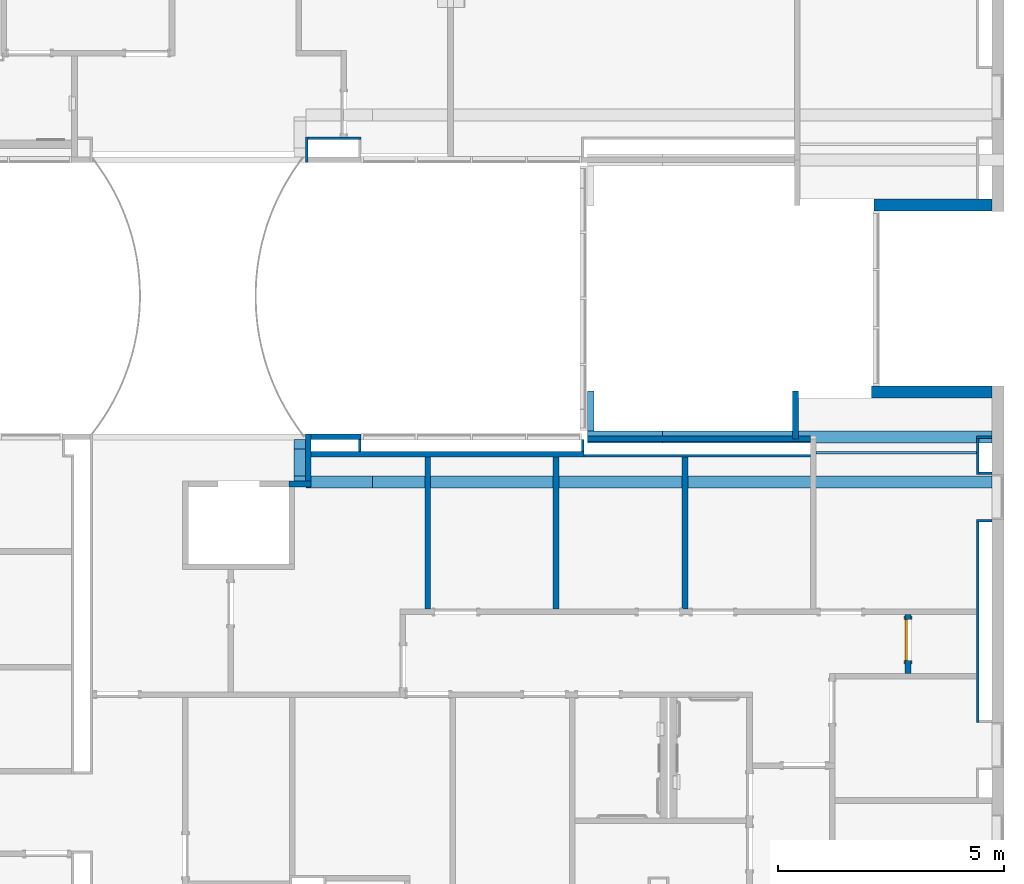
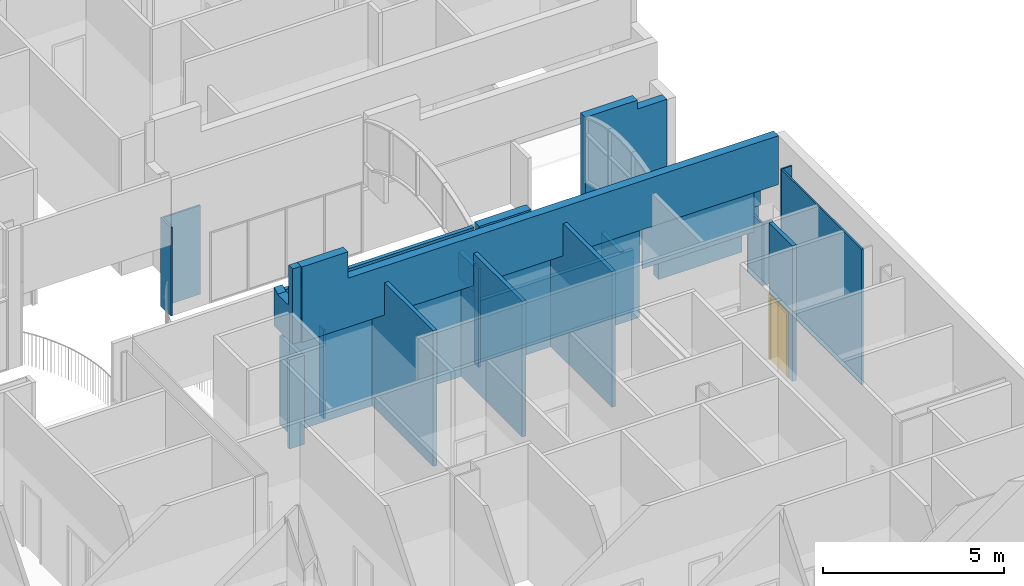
# One storey, part 17 of 45: 27 walls, 1 door, 10 openings.
"""IFC2X3 building model written with IfcOpenShell, lengths in metres."""

from ifc_helpers import new_model, entity, si_unit, converted_unit, frame, frame_2d, origin, origin_2d_with_axis, place, context, project, spatial, polyline, circle_curve, parameter, trimmed, segment, composite_curve, rectangle, outline, extrude, clip, halfspace, bounded_halfspace, source, transform, mapped, material, layer, layer_set, layer_usage, type_object, type_shapes, element, fill, save


model = new_model("IFC2X3")

# Units and contexts
model_context = context("Model", 3, precision=1e-09, world=origin())
plan_context = context("Plan", 3, precision=1e-09, world=origin())
ifc_project = project(units=[si_unit("LENGTHUNIT", "METRE"), si_unit("AREAUNIT", "SQUARE_METRE"), si_unit("VOLUMEUNIT", "CUBIC_METRE"), converted_unit("PLANEANGLEUNIT", "DEGREE", entity("IfcRatioMeasure", 0.01745329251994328), si_unit("PLANEANGLEUNIT", "RADIAN"), dimensions=[0, 0, 0, 0, 0, 0, 0]), si_unit("TIMEUNIT", "SECOND")], contexts=[model_context, plan_context])

# Site, building, storey
site_placement = place(None, origin())
site = spatial("IfcSite", under=ifc_project, at=site_placement, Name="Default", CompositionType="ELEMENT")
building_placement = place(site_placement, origin())
building = spatial("IfcBuilding", under=site, at=building_placement, CompositionType="ELEMENT")
storey_placement = place(building_placement, frame((0.0, 0.0, 4.570000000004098)))
storey = spatial("IfcBuildingStorey", under=building, at=storey_placement, Name="Second Floor", CompositionType="ELEMENT", Elevation=4.570000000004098)

# Wall
ifc_material_1 = material(Name="Plasterboard")
ifc_layer_1 = layer(ifc_material_1, 0.016)
ifc_material_2 = material(Name="Metal - Stud Layer")
ifc_layer_2 = layer(ifc_material_2, 0.092)
ifc_layer_3 = layer(ifc_material_1, 0.016)
ifc_layer_set_1 = layer_set([ifc_layer_1, ifc_layer_2, ifc_layer_3], Name="Basic Wall:Interior - Partition (92mm Stud)")
ifc_layer_usage_1 = layer_usage(ifc_layer_set_1, "AXIS2", "NEGATIVE", 0.062)
wall_1_placement = place(storey_placement, frame((-8.927726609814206, 28.24643871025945, 0.0), z_axis=(0.0, 0.0, 1.0), x_axis=(-1.0, 0.0, 0.0)))
element("IfcWallStandardCase", 1, at=wall_1_placement, inside=storey, material=ifc_layer_usage_1, Name="Basic Wall:Interior - Partition (92mm Stud)", ObjectType="Basic Wall:Interior - Partition (92mm Stud)", context=model_context, shape_type="SweptSolid", body=[
    extrude(rectangle(XDim=6.058248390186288, YDim=0.1239999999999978, at=frame_2d((3.029124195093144, 0.0), x_axis=(-1.0, 0.0))), origin(), (0.0, 0.0, 1.0), 3.35319999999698),
])

# Wall, opening
ifc_layer_usage_2 = layer_usage(ifc_layer_set_1, "AXIS2", "POSITIVE", -0.062)
wall_2_placement = place(storey_placement, frame((-8.981726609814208, 28.6281984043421, 0.0), z_axis=(0.0, 0.0, 1.0), x_axis=(-1.0, 0.0, 0.0)))
wall_2 = element("IfcWallStandardCase", 2, at=wall_2_placement, inside=storey, material=ifc_layer_usage_2, Name="Basic Wall:Interior - Partition (92mm Stud)", ObjectType="Basic Wall:Interior - Partition (92mm Stud)", context=model_context, shape_type="SweptSolid", body=[
    extrude(rectangle(XDim=6.066248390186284, YDim=0.1239999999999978, at=frame_2d((3.033124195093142, 0.0), x_axis=(-1.0, 0.0))), origin(), (0.0, 0.0, 1.0), 4.577999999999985),
])
opening_1_placement = place(wall_2_placement, origin())
element("IfcOpeningElement", 3, at=opening_1_placement, cuts=wall_2, ObjectType="Opening", context=model_context, shape_type="SweptSolid", body=[
    extrude(rectangle(XDim=2.4, YDim=4.890773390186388, at=origin_2d_with_axis()), frame((2.445386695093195, -0.2144000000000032, 1.199999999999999), z_axis=(0.0, 1.0, 0.0), x_axis=(0.0, 0.0, 1.0)), (0.0, 0.0, 1.0), 0.4288000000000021),
])

# Wall
wall_3_placement = place(storey_placement, frame((-15.0479750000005, 27.64589999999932, 0.0), z_axis=(0.0, 0.0, 1.0), x_axis=(0.0, 1.0, 0.0)))
element("IfcWallStandardCase", 4, at=wall_3_placement, inside=storey, material=ifc_layer_usage_1, Name="Basic Wall:Interior - Partition (92mm Stud)", ObjectType="Basic Wall:Interior - Partition (92mm Stud)", context=model_context, shape_type="SweptSolid", body=[
    extrude(rectangle(XDim=1.044298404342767, YDim=0.1240000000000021, at=frame_2d((0.5221492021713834, 0.0), x_axis=(-1.0, 0.0))), origin(), (0.0, 0.0, 1.0), 2.999999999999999),
])

# Wall, opening
ifc_material_3 = material(Name="Insulation - Insulated Panel")
ifc_layer_4 = layer(ifc_material_3, 0.042)
ifc_material_4 = material(Name="Metal - Firring")
ifc_layer_5 = layer(ifc_material_4, 0.038)
ifc_material_5 = material(Name="Wood - Sheathing - plywood")
ifc_layer_6 = layer(ifc_material_5, 0.019)
ifc_layer_7 = layer(ifc_material_2, 0.152)
ifc_layer_8 = layer(ifc_material_1, 0.016)
ifc_layer_set_2 = layer_set([ifc_layer_4, ifc_layer_5, ifc_layer_6, ifc_layer_7, ifc_layer_8], Name="Basic Wall:Exterior - Insul Panel on Mtl. Stud")
ifc_layer_usage_3 = layer_usage(ifc_layer_set_2, "AXIS2", "POSITIVE", -0.1335)
wall_4_placement = place(storey_placement, frame((0.1129999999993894, 29.62649999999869, 0.0), z_axis=(0.0, 0.0, 1.0), x_axis=(-1.0, 0.0, 0.0)))
wall_4 = element("IfcWallStandardCase", 5, at=wall_4_placement, inside=storey, material=ifc_layer_usage_3, Name="Basic Wall:Exterior - Insul Panel on Mtl. Stud", ObjectType="Basic Wall:Exterior - Insul Panel on Mtl. Stud", context=model_context, shape_type="Clipping", body=[
    clip(extrude(rectangle(XDim=2.672999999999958, YDim=0.267, at=frame_2d((1.336499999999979, 0.0), x_axis=(-1.0, 0.0))), origin(), (0.0, 0.0, 1.0), 2.940000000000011), halfspace(frame((0.9479201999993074, 0.0, 2.940000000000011), z_axis=(-0.2673175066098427, 0.0, 0.9636085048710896), x_axis=(0.0, 1.0, 0.0)), False)),
])
opening_2_placement = place(wall_4_placement, frame((0.5874467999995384, 0.1335000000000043, 2.740000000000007)))
element("IfcOpeningElement", 6, at=opening_2_placement, cuts=wall_4, Name="Basic Wall:Exterior - Insul Panel on Mtl. Stud:2", ObjectType="Opening", context=model_context, shape_type="SweptSolid", body=[
    extrude(outline(polyline([(-0.4008187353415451, 0.09636085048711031), (-0.3206234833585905, -0.1927217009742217), (0.7214422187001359, 0.0963608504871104), (-0.4008187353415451, 0.09636085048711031)])), frame((0.0, 0.0, 0.0), z_axis=(0.0, 1.0, 0.0), x_axis=(-0.9636085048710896, 0.0, -0.2673175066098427)), (0.0, 0.0, -1.0), 0.267),
])

ifc_layer_usage_4 = layer_usage(ifc_layer_set_2, "AXIS2", "NEGATIVE", 0.1335)
wall_5_placement = place(storey_placement, frame((0.1129999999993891, 33.77349999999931, 0.0), z_axis=(0.0, 0.0, 1.0), x_axis=(-1.0, 0.0, 0.0)))
wall_5 = element("IfcWallStandardCase", 7, at=wall_5_placement, inside=storey, material=ifc_layer_usage_4, Name="Basic Wall:Exterior - Insul Panel on Mtl. Stud", ObjectType="Basic Wall:Exterior - Insul Panel on Mtl. Stud", context=model_context, shape_type="Clipping", body=[
    clip(extrude(rectangle(XDim=2.610999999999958, YDim=0.267, at=frame_2d((1.305499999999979, 0.0), x_axis=(-1.0, 0.0))), origin(), (0.0, 0.0, 1.0), 2.940000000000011), halfspace(frame((0.9529201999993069, 0.0, 2.940000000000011), z_axis=(-0.2661745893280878, 0.0, 0.963924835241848), x_axis=(0.0, 1.0, 0.0)), False)),
])
opening_3_placement = place(wall_5_placement, frame((0.5907801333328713, 0.1335, 2.74000000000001)))
element("IfcOpeningElement", 8, at=opening_3_placement, cuts=wall_5, Name="Basic Wall:Exterior - Insul Panel on Mtl. Stud:2", ObjectType="Opening", context=model_context, shape_type="SweptSolid", body=[
    extrude(outline(polyline([(-0.4023107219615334, -0.09639248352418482), (0.7247690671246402, -0.09639248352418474), (-0.322458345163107, 0.1927849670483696), (-0.4023107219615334, -0.09639248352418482)])), frame((0.0, 0.0, 0.0), z_axis=(0.0, -1.0, 0.0), x_axis=(-0.963924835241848, 0.0, -0.2661745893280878)), (0.0, 0.0, 1.0), 0.267),
])

# Walls
wall_6_placement = place(storey_placement, frame((-15.47000000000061, 27.58389999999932, 0.0)))
element("IfcWallStandardCase", 9, at=wall_6_placement, inside=storey, material=ifc_layer_usage_1, Name="Basic Wall:Interior - Partition (92mm Stud)", ObjectType="Basic Wall:Interior - Partition (92mm Stud)", context=model_context, shape_type="SweptSolid", body=[
    extrude(rectangle(XDim=0.4840250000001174, YDim=0.1239999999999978, at=frame_2d((0.2420125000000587, 0.0), x_axis=(-1.0, 0.0))), origin(), (0.0, 0.0, 1.0), 2.999999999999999),
])
ifc_layer_9 = layer(ifc_material_2, 0.038)
ifc_layer_10 = layer(ifc_material_1, 0.016)
ifc_layer_set_3 = layer_set([ifc_layer_9, ifc_layer_10], Name="Basic Wall:Interior - Furring (38 mm Stud)")
ifc_layer_usage_5 = layer_usage(ifc_layer_set_3, "AXIS2", "POSITIVE", -0.027)
wall_7_placement = place(storey_placement, frame((-3.913975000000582, 28.21143871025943, 0.0), z_axis=(0.0, 0.0, 1.0), x_axis=(-1.0, 0.0, 0.0)))
element("IfcWallStandardCase", 10, at=wall_7_placement, inside=storey, material=ifc_layer_usage_5, Name="Basic Wall:Interior - Furring (38 mm Stud)", ObjectType="Basic Wall:Interior - Furring (38 mm Stud)", context=model_context, shape_type="SweptSolid", body=[
    extrude(rectangle(XDim=5.013751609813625, YDim=0.05399999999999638, at=frame_2d((2.506875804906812, 0.0), x_axis=(-1.0, 0.0))), origin(), (0.0, 0.0, 1.0), 3.35319999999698),
])
ifc_layer_usage_6 = layer_usage(ifc_layer_set_3, "AXIS2", "NEGATIVE", 0.027)
wall_8_placement = place(storey_placement, frame((-0.2030000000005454, 26.74043871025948, 0.0), z_axis=(0.0, 0.0, 1.0), x_axis=(0.0, -1.0, 0.0)))
element("IfcWallStandardCase", 11, at=wall_8_placement, inside=storey, material=ifc_layer_usage_6, Name="Basic Wall:Interior - Furring (38 mm Stud)", ObjectType="Basic Wall:Interior - Furring (38 mm Stud)", context=model_context, shape_type="SweptSolid", body=[
    extrude(rectangle(XDim=4.446000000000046, YDim=0.05399999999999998, at=frame_2d((2.223000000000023, 0.0), x_axis=(-1.0, 0.0))), origin(), (0.0, 0.0, 1.0), 4.577999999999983),
])
wall_9_placement = place(storey_placement, frame((-8.954726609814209, 28.5661984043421, 0.0), z_axis=(0.0, 0.0, 1.0), x_axis=(0.0, -1.0, 0.0)))
element("IfcWallStandardCase", 12, at=wall_9_placement, inside=storey, material=ifc_layer_usage_6, Name="Basic Wall:Interior - Furring (38 mm Stud)", ObjectType="Basic Wall:Interior - Furring (38 mm Stud)", context=model_context, shape_type="SweptSolid", body=[
    extrude(rectangle(XDim=0.2577596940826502, YDim=0.05400000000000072, at=frame_2d((0.1288798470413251, 0.0), x_axis=(-1.0, 0.0))), origin(), (0.0, 0.0, 1.0), 3.35319999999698),
])

# Wall, opening, door
wall_10_placement = place(storey_placement, frame((-1.74800000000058, 23.38443871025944, 0.0), z_axis=(0.0, 0.0, 1.0), x_axis=(0.0, 1.0, 0.0)))
wall_10 = element("IfcWallStandardCase", 13, at=wall_10_placement, inside=storey, material=ifc_layer_usage_1, Name="Basic Wall:Interior - Partition (92mm Stud)", ObjectType="Basic Wall:Interior - Partition (92mm Stud)", context=model_context, shape_type="SweptSolid", body=[
    extrude(rectangle(XDim=1.300000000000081, YDim=0.124, at=frame_2d((0.6500000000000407, 0.0), x_axis=(-1.0, 0.0))), origin(), (0.0, 0.0, 1.0), 4.577999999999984),
])
opening_4_placement = place(wall_10_placement, frame((0.2850000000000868, -0.06200000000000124, 0.0)))
opening_4 = element("IfcOpeningElement", 14, at=opening_4_placement, cuts=wall_10, Name="M_Single-Flush:0915 x 2134mm:0915 x 2134mm:1", ObjectType="Opening", context=model_context, shape_type="SweptSolid", body=[
    extrude(rectangle(XDim=0.9149999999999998, YDim=2.134, at=frame_2d((1.067, 0.4575), x_axis=(0.0, 1.0))), frame((0.0, 0.0, 0.0), z_axis=(0.0, 1.0, 0.0), x_axis=(0.0, 0.0, 1.0)), (0.0, 0.0, 1.0), 0.124),
])
door_style = type_object("IfcDoorStyle", Name="0915 x 2134mm", ConstructionType="NOTDEFINED", OperationType="SINGLE_SWING_RIGHT", ParameterTakesPrecedence=False, Sizeable=False)
shared_shape = source(origin(), model_context, "Body", "SweptSolid", [
    extrude(outline(polyline([(-0.5335, -1.123999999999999), (0.5334999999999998, -1.123999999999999), (0.5334999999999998, 1.086), (0.4574999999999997, 1.086), (0.4574999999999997, -1.048000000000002), (-0.4574999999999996, -1.048000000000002), (-0.4574999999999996, 1.086), (-0.5335, 1.086), (-0.5335, -1.123999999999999)])), frame((0.4575000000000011, 0.1239999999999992, 1.086), z_axis=(0.0, 1.0, 0.0), x_axis=(1.0, 0.0, 0.0)), (0.0, 0.0, 1.0), 0.02499999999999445),
    extrude(outline(polyline([(-1.123999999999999, -0.5334999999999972), (1.085999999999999, -0.5334999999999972), (1.085999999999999, -0.4575000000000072), (-1.048, -0.4575000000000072), (-1.048, 0.4575000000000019), (1.085999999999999, 0.4575000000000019), (1.085999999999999, 0.5335000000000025), (-1.123999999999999, 0.5335000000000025), (-1.123999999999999, -0.5334999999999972)])), frame((0.4575000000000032, -0.02500000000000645, 1.085999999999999), z_axis=(0.0, 1.0, 0.0), x_axis=(0.0, 0.0, -1.0)), (0.0, 0.0, 1.0), 0.02500000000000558),
    extrude(rectangle(XDim=0.051, YDim=0.9149999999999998, at=origin_2d_with_axis()), frame((0.4575000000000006, 0.09849999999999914, 0.0), z_axis=(0.0, 0.0, 1.0), x_axis=(0.0, 1.0, 0.0)), (0.0, 0.0, 1.0), 2.133999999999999),
])
type_shapes(door_style, [shared_shape])
door_placement = place(opening_4_placement, origin())
door = element("IfcDoor", 15, at=door_placement, inside=storey, type_object=door_style, Name="M_Single-Flush:0915 x 2134mm:0915 x 2134mm", ObjectType="0915 x 2134mm", OverallHeight=2.134, OverallWidth=0.9149999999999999, context=model_context, shape_type="MappedRepresentation", body=[
    mapped(shared_shape, transform((0.0, 0.0, 0.0), scale=1.0)),
])
fill(opening_4, door)

# Wall
wall_11_placement = place(storey_placement, frame((-15.08297500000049, 34.70980159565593, 0.0), z_axis=(0.0, 0.0, 1.0), x_axis=(0.0, 1.0, 0.0)))
element("IfcWallStandardCase", 16, at=wall_11_placement, inside=storey, material=ifc_layer_usage_5, Name="Basic Wall:Interior - Furring (38 mm Stud)", ObjectType="Basic Wall:Interior - Furring (38 mm Stud)", context=model_context, shape_type="SweptSolid", body=[
    extrude(rectangle(XDim=0.5646371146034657, YDim=0.05400000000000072, at=frame_2d((0.2823185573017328, 0.0), x_axis=(-1.0, 0.0))), origin(), (0.0, 0.0, 1.0), 2.999999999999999),
])

# Wall, opening
wall_12_placement = place(storey_placement, frame((-6.691975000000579, 28.18443871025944, 0.0), z_axis=(0.0, 0.0, 1.0), x_axis=(0.0, -1.0, 0.0)))
wall_12 = element("IfcWallStandardCase", 17, at=wall_12_placement, inside=storey, material=ifc_layer_usage_1, Name="Basic Wall:Interior - Partition (92mm Stud)", ObjectType="Basic Wall:Interior - Partition (92mm Stud)", context=model_context, shape_type="Clipping", body=[
    clip(extrude(rectangle(XDim=3.3759999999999, YDim=0.124, at=frame_2d((1.68799999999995, 0.0), x_axis=(-1.0, 0.0))), origin(), (0.0, 0.0, 1.0), 4.577999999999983), halfspace(frame((0.5578427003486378, 0.0, 4.577999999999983), z_axis=(-0.8950082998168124, 0.0, 0.4460494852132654), x_axis=(0.0, 1.0, 0.0)), False)),
])
opening_5_placement = place(wall_12_placement, frame((0.3628951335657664, 0.06200000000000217, 3.79566666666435)))
element("IfcOpeningElement", 18, at=opening_5_placement, cuts=wall_12, Name="Basic Wall:Interior - Partition (92mm Stud):2", ObjectType="Opening", context=model_context, shape_type="SweptSolid", body=[
    extrude(outline(polyline([(-0.787151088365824, -0.1744796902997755), (0.5240099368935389, -0.1744796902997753), (0.2631411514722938, 0.3489593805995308), (-0.787151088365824, -0.1744796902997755)])), frame((0.0, 0.0, 0.0), z_axis=(0.0, -1.0, 0.0), x_axis=(-0.4460494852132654, 0.0, -0.8950082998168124)), (0.0, 0.0, 1.0), 0.124),
])

# Wall
wall_13_placement = place(storey_placement, frame((-15.05597500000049, 35.24743871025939, 0.0)))
element("IfcWallStandardCase", 19, at=wall_13_placement, inside=storey, material=ifc_layer_usage_5, Name="Basic Wall:Interior - Furring (38 mm Stud)", ObjectType="Basic Wall:Interior - Furring (38 mm Stud)", context=model_context, shape_type="SweptSolid", body=[
    extrude(rectangle(XDim=1.183474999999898, YDim=0.05399999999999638, at=frame_2d((0.5917374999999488, 0.0), x_axis=(-1.0, 0.0))), origin(), (0.0, 0.0, 1.0), 2.999999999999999),
])

# Wall, opening
wall_14_placement = place(storey_placement, frame((-9.551975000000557, 28.18443871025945, 0.0), z_axis=(0.0, 0.0, 1.0), x_axis=(0.0, -1.0, 0.0)))
wall_14 = element("IfcWallStandardCase", 20, at=wall_14_placement, inside=storey, material=ifc_layer_usage_1, Name="Basic Wall:Interior - Partition (92mm Stud)", ObjectType="Basic Wall:Interior - Partition (92mm Stud)", context=model_context, shape_type="Clipping", body=[
    clip(extrude(rectangle(XDim=3.3759999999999, YDim=0.124, at=frame_2d((1.68799999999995, 0.0), x_axis=(-1.0, 0.0))), origin(), (0.0, 0.0, 1.0), 4.577999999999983), halfspace(frame((0.5578427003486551, 0.0, 4.577999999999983), z_axis=(-0.8902465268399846, 0.0, 0.4554790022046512), x_axis=(0.0, 1.0, 0.0)), False)),
])
opening_6_placement = place(wall_14_placement, frame((0.3512284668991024, 0.06200000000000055, 3.770333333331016)))
element("IfcOpeningElement", 21, at=opening_6_placement, cuts=wall_14, Name="Basic Wall:Interior - Partition (92mm Stud):2", ObjectType="Opening", context=model_context, shape_type="SweptSolid", body=[
    extrude(outline(polyline([(-0.8131308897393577, -0.1839376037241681), (0.5477281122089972, -0.1839376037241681), (0.2654027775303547, 0.3678752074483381), (-0.8131308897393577, -0.1839376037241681)])), frame((0.0, 0.0, 0.0), z_axis=(0.0, -1.0, 0.0), x_axis=(-0.4554790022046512, 0.0, -0.8902465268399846)), (0.0, 0.0, 1.0), 0.124),
])

wall_15_placement = place(storey_placement, frame((-12.39197500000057, 28.18443871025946, 0.0), z_axis=(0.0, 0.0, 1.0), x_axis=(0.0, -1.0, 0.0)))
wall_15 = element("IfcWallStandardCase", 22, at=wall_15_placement, inside=storey, material=ifc_layer_usage_1, Name="Basic Wall:Interior - Partition (92mm Stud)", ObjectType="Basic Wall:Interior - Partition (92mm Stud)", context=model_context, shape_type="Clipping", body=[
    clip(extrude(rectangle(XDim=3.3759999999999, YDim=0.1240000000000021, at=frame_2d((1.68799999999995, 0.0), x_axis=(-1.0, 0.0))), origin(), (0.0, 0.0, 1.0), 4.577999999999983), halfspace(frame((0.5578427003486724, 0.0, 4.577999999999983), z_axis=(-0.892247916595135, 0.0, 0.4515458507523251), x_axis=(0.0, 1.0, 0.0)), False)),
])
opening_7_placement = place(wall_15_placement, frame((0.351228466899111, 0.06200000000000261, 3.761466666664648)))
element("IfcOpeningElement", 23, at=opening_7_placement, cuts=wall_15, Name="Basic Wall:Interior - Partition (92mm Stud):2", ObjectType="Opening", context=model_context, shape_type="SweptSolid", body=[
    extrude(outline(polyline([(-0.8218459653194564, -0.1843511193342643), (0.5508666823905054, -0.1843511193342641), (0.2709792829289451, 0.36870223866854), (-0.8218459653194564, -0.1843511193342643)])), frame((0.0, 0.0, 0.0), z_axis=(0.0, -1.0, 0.0), x_axis=(-0.4515458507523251, 0.0, -0.892247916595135)), (0.0, 0.0, 1.0), 0.124),
])

# Walls
wall_16_placement = place(storey_placement, frame((0.1129999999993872, 28.61743871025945, 0.0), z_axis=(0.0, 0.0, 1.0), x_axis=(-1.0, 0.0, 0.0)))
element("IfcWallStandardCase", 24, at=wall_16_placement, inside=storey, material=ifc_layer_usage_6, Name="Basic Wall:Interior - Furring (38 mm Stud)", ObjectType="Basic Wall:Interior - Furring (38 mm Stud)", context=model_context, shape_type="SweptSolid", body=[
    extrude(rectangle(XDim=0.344, YDim=0.05399999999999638, at=frame_2d((0.172, 0.0), x_axis=(-1.0, 0.0))), origin(), (0.0, 0.0, 1.0), 2.1054),
])
wall_17_placement = place(storey_placement, frame((-0.2040000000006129, 28.59043871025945, 0.0), z_axis=(0.0, 0.0, 1.0), x_axis=(0.0, -1.0, 0.0)))
element("IfcWallStandardCase", 25, at=wall_17_placement, inside=storey, material=ifc_layer_usage_6, Name="Basic Wall:Interior - Furring (38 mm Stud)", ObjectType="Basic Wall:Interior - Furring (38 mm Stud)", context=model_context, shape_type="SweptSolid", body=[
    extrude(rectangle(XDim=0.7959999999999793, YDim=0.05400000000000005, at=frame_2d((0.3979999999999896, 0.0), x_axis=(-1.0, 0.0))), origin(), (0.0, 0.0, 1.0), 2.1054),
])
wall_18_placement = place(storey_placement, frame((-8.85772660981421, 28.58243871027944, 0.0)))
element("IfcWallStandardCase", 26, at=wall_18_placement, inside=storey, material=ifc_layer_usage_1, Name="Basic Wall:Interior - Partition (92mm Stud)", ObjectType="Basic Wall:Interior - Partition (92mm Stud)", context=model_context, shape_type="SweptSolid", body=[
    extrude(rectangle(XDim=4.943751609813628, YDim=0.1240000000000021, at=frame_2d((2.471875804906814, 0.0), x_axis=(-1.0, 0.0))), origin(), (0.0, 0.0, 1.0), 2.071499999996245),
])

# Wall, opening
wall_19_placement = place(storey_placement, frame((0.11299999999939, 28.6264999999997, 2.191499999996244), z_axis=(0.0, 0.0, 1.0), x_axis=(-1.0, 0.0, 0.0)))
wall_19 = element("IfcWallStandardCase", 27, at=wall_19_placement, inside=storey, material=ifc_layer_usage_3, Name="Basic Wall:Exterior - Insul Panel on Mtl. Stud", ObjectType="Basic Wall:Exterior - Insul Panel on Mtl. Stud", context=model_context, shape_type="Clipping", body=[
    clip(clip(extrude(rectangle(XDim=8.97072660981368, YDim=0.2669999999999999, at=frame_2d((4.48536330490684, 0.0), x_axis=(-1.0, 0.0))), origin(), (0.0, 0.0, 1.0), 2.414977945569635), halfspace(frame((7.309241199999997, -0.1335, 2.414977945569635), z_axis=(2.316904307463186e-06, 0.0, 1.0), x_axis=(0.0, 1.0, 0.0)), False)), halfspace(frame((7.309241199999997, 0.0, 2.414977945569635), z_axis=(-0.09602112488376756, 0.0, 0.9953792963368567), x_axis=(0.0, 1.0, 0.0)), False)),
])
opening_8_placement = place(wall_19_placement, frame((4.828327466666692, 0.1334999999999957, 1.936325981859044)))
element("IfcOpeningElement", 28, at=opening_8_placement, cuts=wall_19, Name="Basic Wall:Exterior - Insul Panel on Mtl. Stud:2", ObjectType="Opening", context=model_context, shape_type="SweptSolid", body=[
    extrude(outline(polyline([(-2.515410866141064, -0.2382201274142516), (4.961880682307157, -0.2382201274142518), (-2.446469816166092, 0.4764402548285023), (-2.515410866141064, -0.2382201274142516)])), frame((0.0, 0.0, 0.0), z_axis=(0.0, -1.0, 0.0), x_axis=(-0.9953792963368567, 0.0, -0.09602112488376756)), (0.0, 0.0, 1.0), 0.267),
])

wall_20_placement = place(storey_placement, frame((-15.23000000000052, 28.56619840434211, 3.486499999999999), z_axis=(0.0, 0.0, 1.0), x_axis=(0.0, -1.0, 0.0)))
wall_20 = element("IfcWallStandardCase", 29, at=wall_20_placement, inside=storey, material=ifc_layer_usage_4, Name="Basic Wall:Exterior - Insul Panel on Mtl. Stud", ObjectType="Basic Wall:Exterior - Insul Panel on Mtl. Stud", context=model_context, shape_type="SweptSolid", body=[
    extrude(rectangle(XDim=1.026688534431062, YDim=0.267, at=frame_2d((0.5133442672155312, 0.0), x_axis=(-1.0, 0.0))), origin(), (0.0, 0.0, 1.0), 2.543499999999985),
])
opening_9_placement = place(wall_20_placement, origin())
element("IfcOpeningElement", 30, at=opening_9_placement, cuts=wall_20, ObjectType="Opening", context=model_context, shape_type="SweptSolid", body=[
    extrude(outline(composite_curve([segment(polyline([(-3.935840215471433, 0.4658794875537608), (-3.935840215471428, -0.9317589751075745)]), True, "CONTINUOUS"), segment(trimmed(circle_curve(frame_2d((-0.0006862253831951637, 6.416606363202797), x_axis=(-1.0, 0.0)), 8.33570093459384), [parameter(61.8303182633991)], [parameter(118.1696817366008)], True, "PARAMETER"), True, "CONTINUOUS"), segment(polyline([(3.934467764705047, -0.9317589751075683), (3.934467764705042, 0.4658794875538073)]), True, "CONTINUOUS"), segment(polyline([(3.934467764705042, 0.4658794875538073), (3.336313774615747, 0.4658794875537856)]), True, "CONTINUOUS"), segment(trimmed(circle_curve(frame_2d((0.001372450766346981, 6.383921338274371), x_axis=(-1.0, 0.0)), 6.793015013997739), [parameter(60.59782404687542)], [parameter(119.4021759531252)], True, "PARAMETER"), False, "CONTINUOUS"), segment(polyline([(-3.333568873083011, 0.4658794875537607), (-3.935840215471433, 0.4658794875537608)]), True, "CONTINUOUS")], self_intersect=False)), frame((-3.129737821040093, -0.2858999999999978, 1.659379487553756), z_axis=(0.0, -1.0, 0.0), x_axis=(-1.0, 0.0, 0.0)), (0.0, 0.0, -1.0), 0.5718),
])

# Walls
wall_21_placement = place(storey_placement, frame((-4.242000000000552, 29.64599999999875, 0.02843658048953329), z_axis=(0.0, 0.0, 1.0), x_axis=(0.0, -1.0, 0.0)))
element("IfcWallStandardCase", 31, at=wall_21_placement, inside=storey, material=ifc_layer_usage_1, Name="Basic Wall:Interior - Partition (92mm Stud)", ObjectType="Basic Wall:Interior - Partition (92mm Stud)", context=model_context, shape_type="SweptSolid", body=[
    extrude(rectangle(XDim=1.063561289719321, YDim=0.124, at=frame_2d((0.5317806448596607, 0.0), x_axis=(-1.0, 0.0))), origin(), (0.0, 0.0, 1.0), 2.077003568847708),
])
wall_22_placement = place(storey_placement, frame((-0.1770000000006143, 27.82143871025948, 0.0)))
element("IfcWallStandardCase", 32, at=wall_22_placement, inside=storey, material=ifc_layer_usage_6, Name="Basic Wall:Interior - Furring (38 mm Stud)", ObjectType="Basic Wall:Interior - Furring (38 mm Stud)", context=model_context, shape_type="SweptSolid", body=[
    extrude(rectangle(XDim=0.2900000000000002, YDim=0.05399999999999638, at=frame_2d((0.1450000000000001, 0.0), x_axis=(-1.0, 0.0))), origin(), (0.0, 0.0, 1.0), 2.1054),
])
wall_23_placement = place(storey_placement, frame((0.1129999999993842, 26.76743871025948, 0.0), z_axis=(0.0, 0.0, 1.0), x_axis=(-1.0, 0.0, 0.0)))
element("IfcWallStandardCase", 33, at=wall_23_placement, inside=storey, material=ifc_layer_usage_6, Name="Basic Wall:Interior - Furring (38 mm Stud)", ObjectType="Basic Wall:Interior - Furring (38 mm Stud)", context=model_context, shape_type="SweptSolid", body=[
    extrude(rectangle(XDim=0.3429999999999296, YDim=0.05399999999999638, at=frame_2d((0.1714999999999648, 0.0), x_axis=(-1.0, 0.0))), origin(), (0.0, 0.0, 1.0), 4.577999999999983),
])

# Wall, opening
wall_24_placement = place(storey_placement, frame((0.1129999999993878, 27.62659600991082, 3.486499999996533), z_axis=(0.0, 0.0, 1.0), x_axis=(-1.0, 0.0, 0.0)))
wall_24 = element("IfcWallStandardCase", 34, at=wall_24_placement, inside=storey, material=ifc_layer_usage_3, Name="Basic Wall:Exterior - Insul Panel on Mtl. Stud", ObjectType="Basic Wall:Exterior - Insul Panel on Mtl. Stud", context=model_context, shape_type="Clipping", body=[
    clip(extrude(rectangle(XDim=15.20949999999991, YDim=0.267, at=frame_2d((7.604749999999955, 0.0), x_axis=(-1.0, 0.0))), origin(), (0.0, 0.0, 1.0), 2.544328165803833), halfspace(frame((13.73299999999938, 0.0, 2.544328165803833), z_axis=(-0.06432603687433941, 0.0, 0.9979289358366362), x_axis=(0.0, 1.0, 0.0)), False)),
])
opening_10_placement = place(wall_24_placement, frame((9.11083333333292, 0.1335000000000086, 1.94844272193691)))
element("IfcOpeningElement", 35, at=opening_10_placement, cuts=wall_24, Name="Basic Wall:Exterior - Insul Panel on Mtl. Stud:2", ObjectType="Opening", context=model_context, shape_type="SweptSolid", body=[
    extrude(outline(polyline([(-4.650924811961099, -0.2973256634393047), (9.244353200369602, -0.2973256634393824), (-4.5934283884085, 0.5946513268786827), (-4.650924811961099, -0.2973256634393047)])), frame((0.0, 0.0, 0.0), z_axis=(0.0, -1.0, 0.0), x_axis=(-0.9979289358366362, 0.0, -0.06432603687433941)), (0.0, 0.0, 1.0), 0.267),
])

# Walls
wall_25_placement = place(storey_placement, frame((-13.8995000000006, 28.56619840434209, 0.0), z_axis=(0.0, 0.0, 1.0), x_axis=(0.0, -1.0, 0.0)))
element("IfcWallStandardCase", 36, at=wall_25_placement, inside=storey, material=ifc_layer_usage_5, Name="Basic Wall:Interior - Furring (38 mm Stud)", ObjectType="Basic Wall:Interior - Furring (38 mm Stud)", context=model_context, shape_type="SweptSolid", body=[
    extrude(rectangle(XDim=0.25775969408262, YDim=0.05400000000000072, at=frame_2d((0.12887984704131, 0.0), x_axis=(-1.0, 0.0))), origin(), (0.0, 0.0, 1.0), 2.999999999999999),
])
wall_26_placement = place(storey_placement, frame((-3.789975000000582, 28.27649999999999, 1.55)))
element("IfcWallStandardCase", 37, at=wall_26_placement, inside=storey, material=ifc_layer_usage_6, Name="Basic Wall:Interior - Furring (38 mm Stud)", ObjectType="Basic Wall:Interior - Furring (38 mm Stud)", context=model_context, shape_type="Clipping", body=[
    clip(clip(extrude(rectangle(XDim=3.558974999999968, YDim=0.05399999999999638, at=frame_2d((1.779487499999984, 0.0), x_axis=(-1.0, 0.0))), origin(), (0.0, 0.0, 1.0), 1.816499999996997), bounded_halfspace(frame((3.558974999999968, -0.01500000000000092, 0.05700000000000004), z_axis=(0.0, 0.0, 1.0), x_axis=(0.0, -1.0, 0.0)), True, frame((3.558974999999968, -0.01500000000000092, 0.05700000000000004), z_axis=(0.0, 0.0, 1.0), x_axis=(0.0, -1.0, 0.0)), polyline([(0.0, 0.0), (-0.04199999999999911, 0.0), (-0.04199999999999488, -3.558974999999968), (0.0, -3.558974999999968), (0.0, 0.0)]))), bounded_halfspace(frame((0.0, -0.01499999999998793, 0.05700000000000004), z_axis=(0.0, -1.0, 0.0), x_axis=(0.0, 0.0, -1.0)), True, frame((0.0, -0.01499999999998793, 0.05700000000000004), z_axis=(0.0, -1.0, 0.0), x_axis=(0.0, 0.0, -1.0)), polyline([(0.0, 0.0), (0.05700000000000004, 0.0), (0.05700000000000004, 3.558974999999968), (0.0, 3.558974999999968), (0.0, 0.0)]))),
])
wall_27_placement = place(storey_placement, frame((-8.84822660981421, 29.64599999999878, 2.1915), z_axis=(0.0, 0.0, 1.0), x_axis=(0.0, -1.0, 0.0)))
element("IfcWallStandardCase", 38, at=wall_27_placement, inside=storey, material=ifc_layer_usage_4, Name="Basic Wall:Exterior - Insul Panel on Mtl. Stud", ObjectType="Basic Wall:Exterior - Insul Panel on Mtl. Stud", context=model_context, shape_type="Clipping", body=[
    clip(extrude(rectangle(XDim=0.8859999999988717, YDim=0.2669999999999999, at=frame_2d((0.4429999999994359, 0.0), x_axis=(-1.0, 0.0))), origin(), (0.0, 0.0, 1.0), 0.8785000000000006), bounded_halfspace(frame((0.0, -0.009500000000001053, 0.0), z_axis=(0.0, 1.0, 0.0), x_axis=(-1.0, 0.0, 0.0)), True, frame((0.0, -0.009500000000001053, 0.0), z_axis=(0.0, 1.0, 0.0), x_axis=(-1.0, 0.0, 0.0)), polyline([(0.0, 0.0), (0.0, 0.8785000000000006), (-0.3832085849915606, 0.8785000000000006), (-0.8759999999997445, 0.8785000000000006), (-0.8859999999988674, 0.8785000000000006), (-0.8859999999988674, 0.0), (0.0, 0.0)]))),
])

save(model, "model.ifc")
